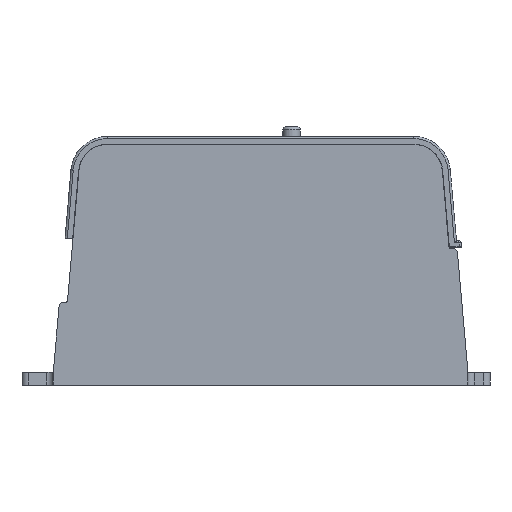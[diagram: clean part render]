
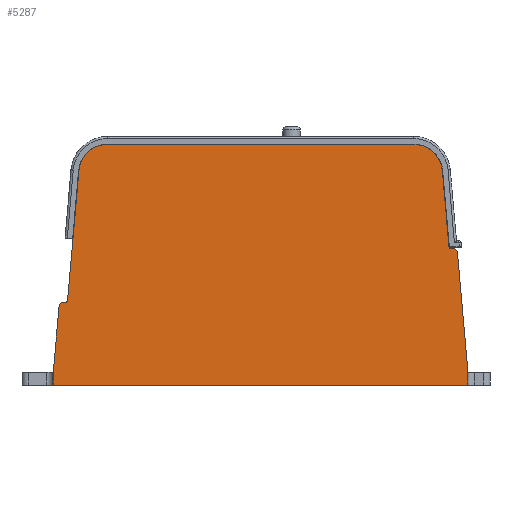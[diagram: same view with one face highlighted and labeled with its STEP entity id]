
A CAD part, front view. The second image highlights one B-rep face of the part: STEP entity #5287.
In plain terms, the highlighted planar face has unit normal (0, -1, 0).
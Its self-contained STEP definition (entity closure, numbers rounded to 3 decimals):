
#236=LINE('',#7938,#770);
#258=LINE('',#8023,#792);
#259=LINE('',#8028,#793);
#260=LINE('',#8032,#794);
#261=LINE('',#8036,#795);
#262=LINE('',#8040,#796);
#263=LINE('',#8044,#797);
#264=LINE('',#8048,#798);
#265=LINE('',#8050,#799);
#266=LINE('',#8051,#800);
#770=VECTOR('',#6281,1000.);
#792=VECTOR('',#6347,1000.);
#793=VECTOR('',#6350,1000.);
#794=VECTOR('',#6353,1000.);
#795=VECTOR('',#6356,1000.);
#796=VECTOR('',#6359,1000.);
#797=VECTOR('',#6362,1000.);
#798=VECTOR('',#6365,1000.);
#799=VECTOR('',#6366,1000.);
#800=VECTOR('',#6367,1000.);
#1362=ORIENTED_EDGE('',*,*,#2895,.T.);
#1363=ORIENTED_EDGE('',*,*,#2896,.T.);
#1364=ORIENTED_EDGE('',*,*,#2897,.T.);
#1365=ORIENTED_EDGE('',*,*,#2898,.T.);
#1366=ORIENTED_EDGE('',*,*,#2899,.T.);
#1367=ORIENTED_EDGE('',*,*,#2900,.T.);
#1368=ORIENTED_EDGE('',*,*,#2901,.F.);
#1369=ORIENTED_EDGE('',*,*,#2902,.T.);
#1370=ORIENTED_EDGE('',*,*,#2903,.T.);
#1371=ORIENTED_EDGE('',*,*,#2904,.T.);
#1372=ORIENTED_EDGE('',*,*,#2905,.T.);
#1373=ORIENTED_EDGE('',*,*,#2906,.T.);
#1374=ORIENTED_EDGE('',*,*,#2907,.F.);
#1375=ORIENTED_EDGE('',*,*,#2908,.F.);
#1376=ORIENTED_EDGE('',*,*,#2853,.F.);
#1377=ORIENTED_EDGE('',*,*,#2909,.F.);
#2853=EDGE_CURVE('',#3620,#3621,#236,.T.);
#2895=EDGE_CURVE('',#3662,#3663,#258,.T.);
#2896=EDGE_CURVE('',#3663,#3664,#4103,.F.);
#2897=EDGE_CURVE('',#3664,#3665,#259,.T.);
#2898=EDGE_CURVE('',#3665,#3666,#4104,.T.);
#2899=EDGE_CURVE('',#3666,#3667,#260,.T.);
#2900=EDGE_CURVE('',#3667,#3668,#4105,.F.);
#2901=EDGE_CURVE('',#3669,#3668,#261,.T.);
#2902=EDGE_CURVE('',#3669,#3670,#4106,.F.);
#2903=EDGE_CURVE('',#3670,#3671,#262,.T.);
#2904=EDGE_CURVE('',#3671,#3672,#4107,.T.);
#2905=EDGE_CURVE('',#3672,#3673,#263,.T.);
#2906=EDGE_CURVE('',#3673,#3674,#4108,.F.);
#2907=EDGE_CURVE('',#3675,#3674,#264,.T.);
#2908=EDGE_CURVE('',#3621,#3675,#265,.T.);
#2909=EDGE_CURVE('',#3662,#3620,#266,.T.);
#3620=VERTEX_POINT('',#7937);
#3621=VERTEX_POINT('',#7939);
#3662=VERTEX_POINT('',#8024);
#3663=VERTEX_POINT('',#8025);
#3664=VERTEX_POINT('',#8027);
#3665=VERTEX_POINT('',#8029);
#3666=VERTEX_POINT('',#8031);
#3667=VERTEX_POINT('',#8033);
#3668=VERTEX_POINT('',#8035);
#3669=VERTEX_POINT('',#8037);
#3670=VERTEX_POINT('',#8039);
#3671=VERTEX_POINT('',#8041);
#3672=VERTEX_POINT('',#8043);
#3673=VERTEX_POINT('',#8045);
#3674=VERTEX_POINT('',#8047);
#3675=VERTEX_POINT('',#8049);
#4103=CIRCLE('',#5683,1.5);
#4104=CIRCLE('',#5684,0.5);
#4105=CIRCLE('',#5685,9.);
#4106=CIRCLE('',#5686,9.);
#4107=CIRCLE('',#5687,0.5);
#4108=CIRCLE('',#5688,1.5);
#4306=EDGE_LOOP('',(#1362,#1363,#1364,#1365,#1366,#1367,#1368,#1369,#1370,
#1371,#1372,#1373,#1374,#1375,#1376,#1377));
#4702=FACE_BOUND('',#4306,.T.);
#5086=PLANE('',#5682);
#5287=ADVANCED_FACE('',(#4702),#5086,.F.);
#5682=AXIS2_PLACEMENT_3D('',#8022,#6345,#6346);
#5683=AXIS2_PLACEMENT_3D('',#8026,#6348,#6349);
#5684=AXIS2_PLACEMENT_3D('',#8030,#6351,#6352);
#5685=AXIS2_PLACEMENT_3D('',#8034,#6354,#6355);
#5686=AXIS2_PLACEMENT_3D('',#8038,#6357,#6358);
#5687=AXIS2_PLACEMENT_3D('',#8042,#6360,#6361);
#5688=AXIS2_PLACEMENT_3D('',#8046,#6363,#6364);
#6281=DIRECTION('',(-1.,0.,0.));
#6345=DIRECTION('',(0.,1.,0.));
#6346=DIRECTION('',(0.,0.,1.));
#6347=DIRECTION('',(-0.087,0.,0.996));
#6348=DIRECTION('',(0.,1.,0.));
#6349=DIRECTION('',(0.,0.,1.));
#6350=DIRECTION('',(-1.,0.,0.));
#6351=DIRECTION('',(0.,1.,0.));
#6352=DIRECTION('',(0.,0.,1.));
#6353=DIRECTION('',(-0.087,0.,0.996));
#6354=DIRECTION('',(0.,1.,0.));
#6355=DIRECTION('',(0.,0.,1.));
#6356=DIRECTION('',(1.,0.,0.));
#6357=DIRECTION('',(0.,1.,0.));
#6358=DIRECTION('',(0.,0.,1.));
#6359=DIRECTION('',(-0.087,0.,-0.996));
#6360=DIRECTION('',(0.,1.,0.));
#6361=DIRECTION('',(0.,0.,1.));
#6362=DIRECTION('',(-1.,0.,0.));
#6363=DIRECTION('',(0.,1.,0.));
#6364=DIRECTION('',(0.,0.,1.));
#6365=DIRECTION('',(0.087,0.,0.996));
#6366=DIRECTION('',(0.,0.,1.));
#6367=DIRECTION('',(0.,0.,-1.));
#7937=CARTESIAN_POINT('',(65.,0.,-37.75));
#7938=CARTESIAN_POINT('',(65.,0.,-37.75));
#7939=CARTESIAN_POINT('',(-65.,0.,-37.75));
#8022=CARTESIAN_POINT('',(0.,0.,0.));
#8023=CARTESIAN_POINT('',(61.576,0.,5.387));
#8024=CARTESIAN_POINT('',(65.,0.,-33.75));
#8025=CARTESIAN_POINT('',(61.725,0.,3.681));
#8026=CARTESIAN_POINT('',(60.231,0.,3.55));
#8027=CARTESIAN_POINT('',(60.231,0.,5.05));
#8028=CARTESIAN_POINT('',(0.,0.,5.05));
#8029=CARTESIAN_POINT('',(59.554,0.,5.05));
#8030=CARTESIAN_POINT('',(59.554,0.,5.55));
#8031=CARTESIAN_POINT('',(59.056,0.,5.506));
#8032=CARTESIAN_POINT('',(59.085,0.,5.169));
#8033=CARTESIAN_POINT('',(56.954,0.,29.534));
#8034=CARTESIAN_POINT('',(47.988,0.,28.75));
#8035=CARTESIAN_POINT('',(47.988,0.,37.75));
#8036=CARTESIAN_POINT('',(-65.,0.,37.75));
#8037=CARTESIAN_POINT('',(-47.988,0.,37.75));
#8038=CARTESIAN_POINT('',(-47.988,0.,28.75));
#8039=CARTESIAN_POINT('',(-56.954,0.,29.534));
#8040=CARTESIAN_POINT('',(-59.085,0.,5.169));
#8041=CARTESIAN_POINT('',(-60.526,0.,-11.294));
#8042=CARTESIAN_POINT('',(-61.024,0.,-11.25));
#8043=CARTESIAN_POINT('',(-61.024,0.,-11.75));
#8044=CARTESIAN_POINT('',(0.,0.,-11.75));
#8045=CARTESIAN_POINT('',(-61.701,0.,-11.75));
#8046=CARTESIAN_POINT('',(-61.701,0.,-13.25));
#8047=CARTESIAN_POINT('',(-63.195,0.,-13.119));
#8048=CARTESIAN_POINT('',(-61.576,0.,5.387));
#8049=CARTESIAN_POINT('',(-65.,0.,-33.75));
#8050=CARTESIAN_POINT('',(-65.,0.,-37.75));
#8051=CARTESIAN_POINT('',(65.,0.,37.75));
